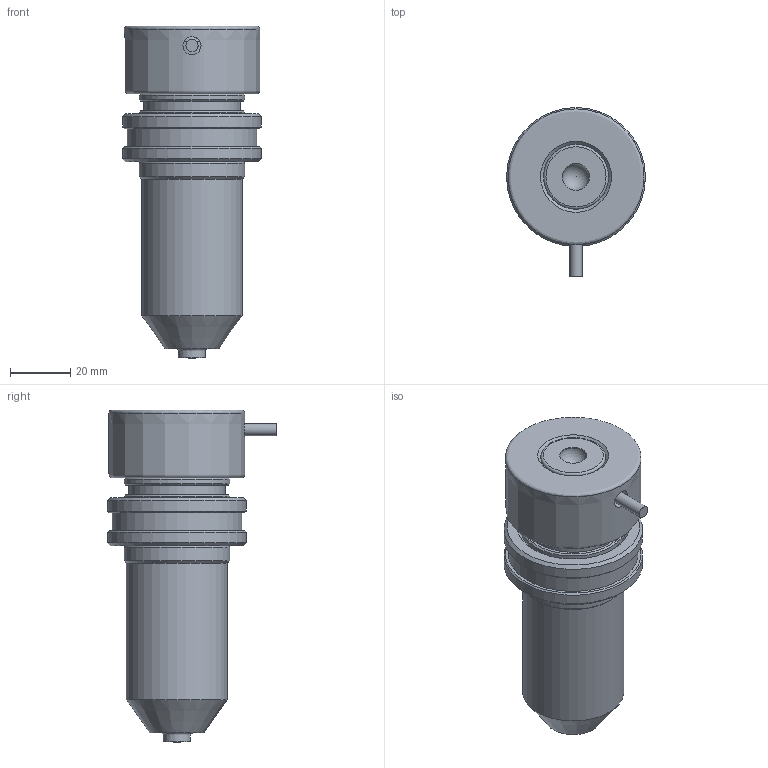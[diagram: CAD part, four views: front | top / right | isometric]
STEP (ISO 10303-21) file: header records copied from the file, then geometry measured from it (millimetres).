
FILE_DESCRIPTION(('STEP AP214'),'1');
FILE_NAME('IPM400-C.stp','2018-06-13T06:32:44',(' '),(' '),'Spatial InterOp 3D',' ',' ');
FILE_SCHEMA(('AUTOMOTIVE_DESIGN { 1 0 10303 214 1 1 1 1 }'));
Length unit declared in the file: millimetre
Products named in the file (1): 1
Bounding box: 46 x 56 x 110 mm (x, y, z)
Volume: 97197.7 mm3; surface area: 35342.8 mm2
Topology: 4 solids, 4 shells, 84 faces, 155 edges, 92 vertices
Faces by surface type: cylinder 27, plane 22, cone 21, torus 7, revolution 5, sphere 2
Full cylindrical faces by diameter (mm): 2 x1, 2.5 x1, 4 x1, 4.55 x1, 6 x1, 6.6 x1, 7 x2, 9 x1, 10.7 x1, 10.72 x1, 11 x1, 20 x1, 21.5 x1, 26 x2, 31 x1, 32 x1, 33.5 x1, 35 x5, 43 x1, 46 x2
Entity records: 2657 total; most frequent: CARTESIAN_POINT 536, DIRECTION 331, ORIENTED_EDGE 168, EDGE_LOOP 165, AXIS2_PLACEMENT_3D 163, FACE_OUTER_BOUND 124, STYLED_ITEM 84, PRESENTATION_STYLE_ASSIGNMENT 84
